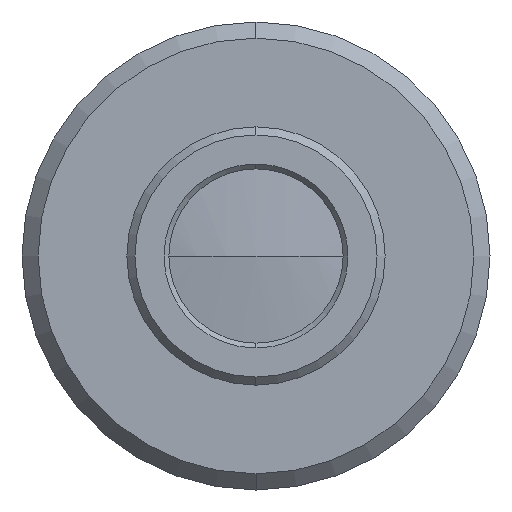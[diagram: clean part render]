
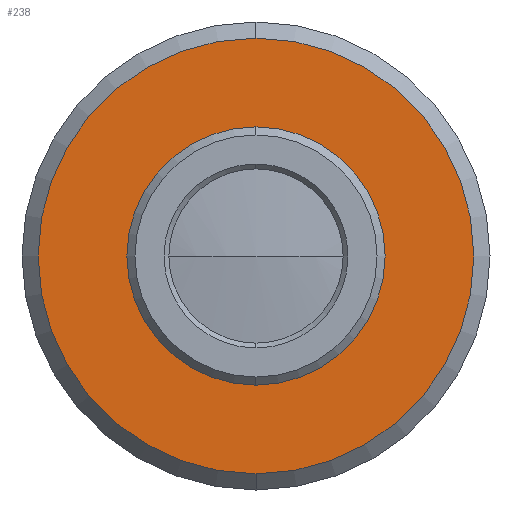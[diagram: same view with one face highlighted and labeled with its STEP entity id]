
A CAD part, left-side view. The second image highlights one B-rep face of the part: STEP entity #238.
In plain terms, the highlighted planar face has unit normal (-1, 0, 0).
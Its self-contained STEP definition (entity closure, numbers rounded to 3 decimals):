
#15 = ORIENTED_EDGE ( 'NONE', *, *, #1459, .T. ) ;
#32 = VERTEX_POINT ( 'NONE', #1298 ) ;
#65 = CARTESIAN_POINT ( 'NONE',  ( -24.03, 0., 8. ) ) ;
#92 = CIRCLE ( 'NONE', #1709, 8. ) ;
#133 = DIRECTION ( 'NONE',  ( -1., 0., 0. ) ) ;
#186 = AXIS2_PLACEMENT_3D ( 'NONE', #1030, #133, #741 ) ;
#238 = ADVANCED_FACE ( 'NONE', ( #1205, #299 ), #619, .T. ) ;
#273 = CARTESIAN_POINT ( 'NONE',  ( -24.03, 0., 0. ) ) ;
#296 = AXIS2_PLACEMENT_3D ( 'NONE', #456, #604, #1524 ) ;
#299 = FACE_OUTER_BOUND ( 'NONE', #975, .T. ) ;
#301 = CARTESIAN_POINT ( 'NONE',  ( -24.03, 0., 0. ) ) ;
#305 = ORIENTED_EDGE ( 'NONE', *, *, #458, .F. ) ;
#456 = CARTESIAN_POINT ( 'NONE',  ( -24.03, 0., 0. ) ) ;
#458 = EDGE_CURVE ( 'NONE', #32, #531, #825, .T. ) ;
#479 = VERTEX_POINT ( 'NONE', #65 ) ;
#531 = VERTEX_POINT ( 'NONE', #1563 ) ;
#551 = DIRECTION ( 'NONE',  ( 0., 0., -1. ) ) ;
#566 = CIRCLE ( 'NONE', #1105, 8. ) ;
#593 = CIRCLE ( 'NONE', #296, 13.5 ) ;
#600 = DIRECTION ( 'NONE',  ( 0., 0., -1. ) ) ;
#604 = DIRECTION ( 'NONE',  ( 1., 0., 0. ) ) ;
#619 = PLANE ( 'NONE',  #186 ) ;
#727 = EDGE_LOOP ( 'NONE', ( #1465, #15 ) ) ;
#741 = DIRECTION ( 'NONE',  ( 0., 0., 1. ) ) ;
#762 = DIRECTION ( 'NONE',  ( 1., 0., 0. ) ) ;
#825 = CIRCLE ( 'NONE', #1568, 13.5 ) ;
#844 = DIRECTION ( 'NONE',  ( 1., 0., 0. ) ) ;
#866 = VERTEX_POINT ( 'NONE', #1442 ) ;
#886 = DIRECTION ( 'NONE',  ( 1., 0., 0. ) ) ;
#975 = EDGE_LOOP ( 'NONE', ( #1166, #305 ) ) ;
#1030 = CARTESIAN_POINT ( 'NONE',  ( -24.03, 13.5, 0. ) ) ;
#1057 = EDGE_CURVE ( 'NONE', #531, #32, #593, .T. ) ;
#1105 = AXIS2_PLACEMENT_3D ( 'NONE', #273, #886, #600 ) ;
#1166 = ORIENTED_EDGE ( 'NONE', *, *, #1057, .F. ) ;
#1205 = FACE_BOUND ( 'NONE', #727, .T. ) ;
#1298 = CARTESIAN_POINT ( 'NONE',  ( -24.03, 0., 13.5 ) ) ;
#1442 = CARTESIAN_POINT ( 'NONE',  ( -24.03, 0., -8. ) ) ;
#1447 = CARTESIAN_POINT ( 'NONE',  ( -24.03, 0., 0. ) ) ;
#1459 = EDGE_CURVE ( 'NONE', #479, #866, #92, .T. ) ;
#1465 = ORIENTED_EDGE ( 'NONE', *, *, #1547, .T. ) ;
#1524 = DIRECTION ( 'NONE',  ( 0., 0., -1. ) ) ;
#1547 = EDGE_CURVE ( 'NONE', #866, #479, #566, .T. ) ;
#1563 = CARTESIAN_POINT ( 'NONE',  ( -24.03, 0., -13.5 ) ) ;
#1568 = AXIS2_PLACEMENT_3D ( 'NONE', #1447, #844, #551 ) ;
#1709 = AXIS2_PLACEMENT_3D ( 'NONE', #301, #762, #1798 ) ;
#1798 = DIRECTION ( 'NONE',  ( 0., 0., -1. ) ) ;
